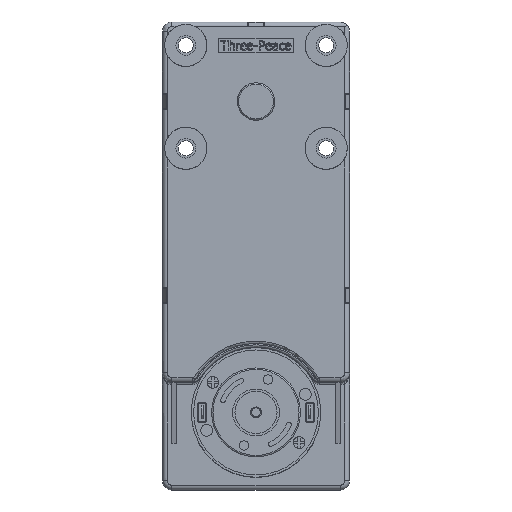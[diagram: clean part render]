
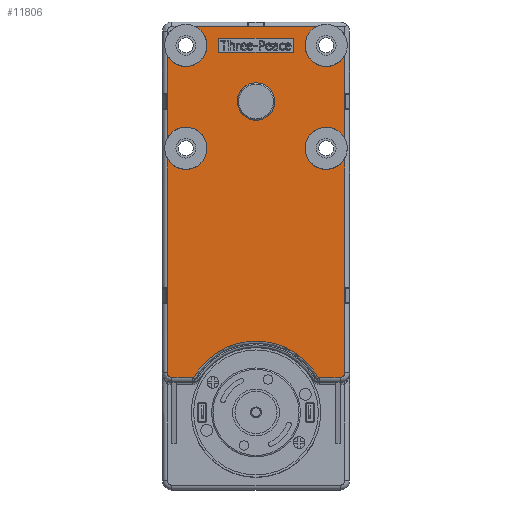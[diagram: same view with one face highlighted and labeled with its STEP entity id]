
A CAD part, top view. The second image highlights one B-rep face of the part: STEP entity #11806.
In plain terms, the highlighted planar face has unit normal (0, 0, 1).
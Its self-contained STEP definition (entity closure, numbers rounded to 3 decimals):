
#10550=CARTESIAN_POINT('',(13.32,7.528,6.3));
#10551=VERTEX_POINT('',#10550);
#10567=CARTESIAN_POINT('',(-13.32,7.528,6.3));
#10568=VERTEX_POINT('',#10567);
#10569=CARTESIAN_POINT('',(0.0,0.0,6.3));
#10570=DIRECTION('',(0.0,0.0,1.0));
#10571=DIRECTION('',(0.0,1.0,0.0));
#10572=AXIS2_PLACEMENT_3D('',#10569,#10570,#10571);
#10573=CIRCLE('',#10572,15.3);
#10574=EDGE_CURVE('',#10551,#10568,#10573,.T.);
#11239=CARTESIAN_POINT('',(19.,76.438,6.3));
#11240=VERTEX_POINT('',#11239);
#11255=CARTESIAN_POINT('',(19.,58.562,6.3));
#11256=VERTEX_POINT('',#11255);
#11257=CARTESIAN_POINT('',(19.,76.438,6.3));
#11258=DIRECTION('',(0.0,-1.0,0.0));
#11259=VECTOR('',#11258,17.877);
#11260=LINE('',#11257,#11259);
#11261=EDGE_CURVE('',#11240,#11256,#11260,.T.);
#11263=CARTESIAN_POINT('',(19.,54.438,6.3));
#11264=VERTEX_POINT('',#11263);
#11279=CARTESIAN_POINT('',(19.,8.5,6.3));
#11280=VERTEX_POINT('',#11279);
#11281=CARTESIAN_POINT('',(19.,54.438,6.3));
#11282=DIRECTION('',(0.0,-1.0,0.0));
#11283=VECTOR('',#11282,45.938);
#11284=LINE('',#11281,#11283);
#11285=EDGE_CURVE('',#11264,#11280,#11284,.T.);
#11319=CARTESIAN_POINT('',(-19.,8.5,6.3));
#11320=VERTEX_POINT('',#11319);
#11328=CARTESIAN_POINT('',(-19.,54.438,6.3));
#11329=VERTEX_POINT('',#11328);
#11330=CARTESIAN_POINT('',(-19.0,8.5,6.3));
#11331=DIRECTION('',(0.0,1.0,0.0));
#11332=VECTOR('',#11331,45.938);
#11333=LINE('',#11330,#11332);
#11334=EDGE_CURVE('',#11320,#11329,#11333,.T.);
#11336=CARTESIAN_POINT('',(-19.,58.562,6.3));
#11337=VERTEX_POINT('',#11336);
#11352=CARTESIAN_POINT('',(-19.,76.438,6.3));
#11353=VERTEX_POINT('',#11352);
#11354=CARTESIAN_POINT('',(-19.,58.562,6.3));
#11355=DIRECTION('',(0.0,1.0,0.0));
#11356=VECTOR('',#11355,17.877);
#11357=LINE('',#11354,#11356);
#11358=EDGE_CURVE('',#11337,#11353,#11357,.T.);
#11611=CARTESIAN_POINT('',(-12.938,82.5,6.3));
#11612=VERTEX_POINT('',#11611);
#11627=CARTESIAN_POINT('',(12.938,82.5,6.3));
#11628=VERTEX_POINT('',#11627);
#11629=CARTESIAN_POINT('',(-12.938,82.5,6.3));
#11630=DIRECTION('',(1.0,0.0,0.0));
#11631=VECTOR('',#11630,25.877);
#11632=LINE('',#11629,#11631);
#11633=EDGE_CURVE('',#11612,#11628,#11632,.T.);
#11672=CARTESIAN_POINT('',(0.,33.5,6.3));
#11673=DIRECTION('',(0.0,0.0,1.0));
#11674=DIRECTION('',(1.0,0.0,0.0));
#11675=AXIS2_PLACEMENT_3D('',#11672,#11673,#11674);
#11676=PLANE('',#11675);
#11677=ORIENTED_EDGE('',*,*,#11633,.F.);
#11678=CARTESIAN_POINT('',(-15.0,78.5,6.3));
#11679=DIRECTION('',(0.0,0.0,-1.0));
#11680=DIRECTION('',(-1.0,0.0,0.0));
#11681=AXIS2_PLACEMENT_3D('',#11678,#11679,#11680);
#11682=CIRCLE('',#11681,4.5);
#11683=EDGE_CURVE('',#11612,#11353,#11682,.T.);
#11684=ORIENTED_EDGE('',*,*,#11683,.T.);
#11685=ORIENTED_EDGE('',*,*,#11358,.F.);
#11686=CARTESIAN_POINT('',(-15.0,56.5,6.3));
#11687=DIRECTION('',(0.0,0.0,-1.0));
#11688=DIRECTION('',(-1.0,0.0,0.0));
#11689=AXIS2_PLACEMENT_3D('',#11686,#11687,#11688);
#11690=CIRCLE('',#11689,4.5);
#11691=EDGE_CURVE('',#11337,#11329,#11690,.T.);
#11692=ORIENTED_EDGE('',*,*,#11691,.T.);
#11693=ORIENTED_EDGE('',*,*,#11334,.F.);
#11694=CARTESIAN_POINT('',(-18.0,7.5,6.3));
#11695=VERTEX_POINT('',#11694);
#11696=CARTESIAN_POINT('',(-18.0,8.5,6.3));
#11697=DIRECTION('',(0.0,0.0,-1.));
#11698=DIRECTION('',(-0.707,-0.707,0.0));
#11699=AXIS2_PLACEMENT_3D('',#11696,#11697,#11698);
#11700=CIRCLE('',#11699,1.);
#11701=EDGE_CURVE('',#11695,#11320,#11700,.T.);
#11702=ORIENTED_EDGE('',*,*,#11701,.F.);
#11703=CARTESIAN_POINT('',(-13.555,7.5,6.3));
#11704=VERTEX_POINT('',#11703);
#11705=CARTESIAN_POINT('',(-13.555,7.5,6.3));
#11706=DIRECTION('',(-1.0,0.0,0.0));
#11707=VECTOR('',#11706,4.445);
#11708=LINE('',#11705,#11707);
#11709=EDGE_CURVE('',#11704,#11695,#11708,.T.);
#11710=ORIENTED_EDGE('',*,*,#11709,.F.);
#11711=CARTESIAN_POINT('',(-13.555,8.5,6.3));
#11712=DIRECTION('',(0.0,0.0,-1.0));
#11713=DIRECTION('',(0.067,-0.998,0.0));
#11714=AXIS2_PLACEMENT_3D('',#11711,#11712,#11713);
#11715=CIRCLE('',#11714,1.0);
#11716=EDGE_CURVE('',#10568,#11704,#11715,.T.);
#11717=ORIENTED_EDGE('',*,*,#11716,.F.);
#11718=ORIENTED_EDGE('',*,*,#10574,.F.);
#11719=CARTESIAN_POINT('',(13.555,7.5,6.3));
#11720=VERTEX_POINT('',#11719);
#11721=CARTESIAN_POINT('',(13.555,8.5,6.3));
#11722=DIRECTION('',(0.0,0.0,-1.0));
#11723=DIRECTION('',(-0.067,-0.998,0.0));
#11724=AXIS2_PLACEMENT_3D('',#11721,#11722,#11723);
#11725=CIRCLE('',#11724,1.0);
#11726=EDGE_CURVE('',#11720,#10551,#11725,.T.);
#11727=ORIENTED_EDGE('',*,*,#11726,.F.);
#11728=CARTESIAN_POINT('',(18.,7.5,6.3));
#11729=VERTEX_POINT('',#11728);
#11730=CARTESIAN_POINT('',(18.,7.5,6.3));
#11731=DIRECTION('',(-1.0,0.0,0.0));
#11732=VECTOR('',#11731,4.445);
#11733=LINE('',#11730,#11732);
#11734=EDGE_CURVE('',#11729,#11720,#11733,.T.);
#11735=ORIENTED_EDGE('',*,*,#11734,.F.);
#11736=CARTESIAN_POINT('',(18.,8.5,6.3));
#11737=DIRECTION('',(0.0,0.0,-1.0));
#11738=DIRECTION('',(0.707,-0.707,0.0));
#11739=AXIS2_PLACEMENT_3D('',#11736,#11737,#11738);
#11740=CIRCLE('',#11739,1.0);
#11741=EDGE_CURVE('',#11280,#11729,#11740,.T.);
#11742=ORIENTED_EDGE('',*,*,#11741,.F.);
#11743=ORIENTED_EDGE('',*,*,#11285,.F.);
#11744=CARTESIAN_POINT('',(15.0,56.5,6.3));
#11745=DIRECTION('',(0.0,0.0,-1.0));
#11746=DIRECTION('',(-1.0,0.0,0.0));
#11747=AXIS2_PLACEMENT_3D('',#11744,#11745,#11746);
#11748=CIRCLE('',#11747,4.5);
#11749=EDGE_CURVE('',#11264,#11256,#11748,.T.);
#11750=ORIENTED_EDGE('',*,*,#11749,.T.);
#11751=ORIENTED_EDGE('',*,*,#11261,.F.);
#11752=CARTESIAN_POINT('',(15.0,78.5,6.3));
#11753=DIRECTION('',(0.0,0.0,-1.0));
#11754=DIRECTION('',(-1.0,0.0,0.0));
#11755=AXIS2_PLACEMENT_3D('',#11752,#11753,#11754);
#11756=CIRCLE('',#11755,4.5);
#11757=EDGE_CURVE('',#11240,#11628,#11756,.T.);
#11758=ORIENTED_EDGE('',*,*,#11757,.T.);
#11759=EDGE_LOOP('',(#11677,#11684,#11685,#11692,#11693,#11702,#11710,#11717,#11718,#11727,#11735,#11742,#11743,#11750,#11751,#11758));
#11760=FACE_OUTER_BOUND('',#11759,.T.);
#11761=CARTESIAN_POINT('',(8.0,77.,6.3));
#11762=VERTEX_POINT('',#11761);
#11763=CARTESIAN_POINT('',(-8.0,77.,6.3));
#11764=VERTEX_POINT('',#11763);
#11765=CARTESIAN_POINT('',(8.0,77.,6.3));
#11766=DIRECTION('',(-1.0,0.0,0.0));
#11767=VECTOR('',#11766,16.0);
#11768=LINE('',#11765,#11767);
#11769=EDGE_CURVE('',#11762,#11764,#11768,.T.);
#11770=ORIENTED_EDGE('',*,*,#11769,.T.);
#11771=CARTESIAN_POINT('',(-8.0,80.0,6.3));
#11772=VERTEX_POINT('',#11771);
#11773=CARTESIAN_POINT('',(-8.0,77.,6.3));
#11774=DIRECTION('',(0.0,1.0,0.0));
#11775=VECTOR('',#11774,3.);
#11776=LINE('',#11773,#11775);
#11777=EDGE_CURVE('',#11764,#11772,#11776,.T.);
#11778=ORIENTED_EDGE('',*,*,#11777,.T.);
#11779=CARTESIAN_POINT('',(8.0,80.0,6.3));
#11780=VERTEX_POINT('',#11779);
#11781=CARTESIAN_POINT('',(-8.0,80.0,6.3));
#11782=DIRECTION('',(1.0,0.0,0.0));
#11783=VECTOR('',#11782,16.0);
#11784=LINE('',#11781,#11783);
#11785=EDGE_CURVE('',#11772,#11780,#11784,.T.);
#11786=ORIENTED_EDGE('',*,*,#11785,.T.);
#11787=CARTESIAN_POINT('',(8.0,80.0,6.3));
#11788=DIRECTION('',(0.0,-1.0,0.0));
#11789=VECTOR('',#11788,3.0);
#11790=LINE('',#11787,#11789);
#11791=EDGE_CURVE('',#11780,#11762,#11790,.T.);
#11792=ORIENTED_EDGE('',*,*,#11791,.T.);
#11793=EDGE_LOOP('',(#11770,#11778,#11786,#11792));
#11794=FACE_BOUND('',#11793,.T.);
#11795=CARTESIAN_POINT('',(4.0,66.5,6.3));
#11796=VERTEX_POINT('',#11795);
#11797=CARTESIAN_POINT('',(0.0,66.5,6.3));
#11798=DIRECTION('',(0.0,0.0,-1.0));
#11799=DIRECTION('',(1.0,0.0,0.0));
#11800=AXIS2_PLACEMENT_3D('',#11797,#11798,#11799);
#11801=CIRCLE('',#11800,4.0);
#11802=EDGE_CURVE('',#11796,#11796,#11801,.T.);
#11803=ORIENTED_EDGE('',*,*,#11802,.T.);
#11804=EDGE_LOOP('',(#11803));
#11805=FACE_BOUND('',#11804,.T.);
#11806=ADVANCED_FACE('',(#11760,#11794,#11805),#11676,.T.);
